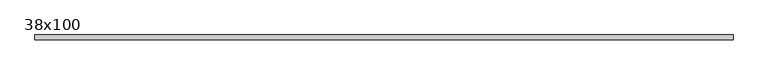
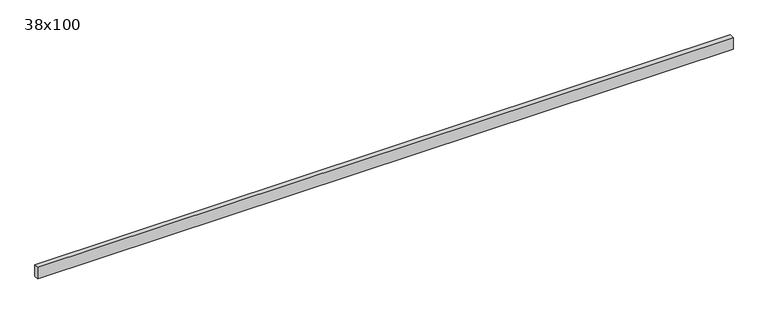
"""IFC4 building model written with IfcOpenShell, lengths in millimetres: beam geometry, Poutre - Bois de construction de dimensions courantes : 38x100."""

from ifc_helpers import new_model, si_unit, frame, origin, place, context, project, spatial, polyline, outline, extrude, source, transform, mapped, element, save


def beam_38x100_95bb4e50(model_context):
    return source(origin(), model_context, "Body", "SweptSolid", [
        extrude(outline(polyline([(2761.0, 19.05), (2761.0, -19.05), (-2921.0, -19.05), (-2921.0, 19.05), (2761.0, 19.05)])), frame((0.0, 0.0, -50.0), z_axis=(0.0, 0.0, 1.0), x_axis=(1.0, 0.0, 0.0)), (0.0, 0.0, 1.0), 100.0),
    ])


if __name__ == "__main__":
    model = new_model("IFC4")
    model_context = context("Model", 3, world=origin())
    ifc_project = project(units=[si_unit("LENGTHUNIT", "METRE", prefix="MILLI")], contexts=[model_context])
    site = spatial("IfcSite", under=ifc_project)
    building = spatial("IfcBuilding", under=site)
    placement = place(None, origin())
    beam_38x100_shape = beam_38x100_95bb4e50(model_context)
    element("IfcBeam", 1, ObjectType="Poutre - Bois de construction de dimensions courantes : 38x100", at=placement, inside=building, context=model_context, shape_type="MappedRepresentation", body=[
        mapped(beam_38x100_shape, transform((0.0, 0.0, 0.0), x_axis=(1.0, 0.0, 0.0), y_axis=(0.0, 1.0, 0.0), z_axis=(0.0, 0.0, 1.0))),
    ])
    save(model, "model.ifc")
